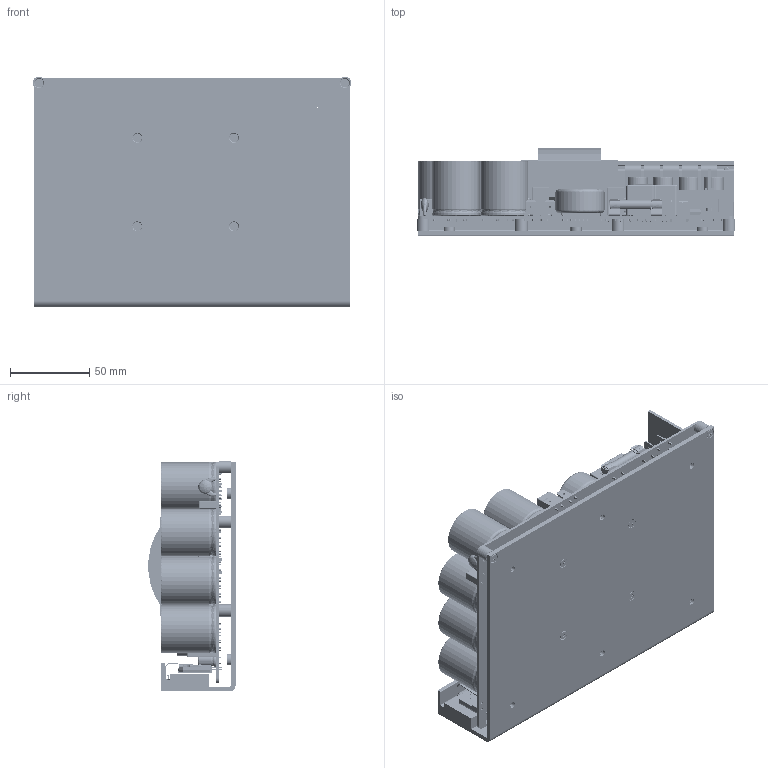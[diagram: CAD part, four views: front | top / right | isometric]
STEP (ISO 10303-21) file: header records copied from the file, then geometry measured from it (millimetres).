
FILE_DESCRIPTION (( 'STEP AP214' ), '1' );
FILE_NAME ('SMPS3k 09xx.STEP', '2020-10-21T12:06:15', ( '' ), ( '' ), 'SwSTEP 2.0', 'SolidWorks 2017', '' );
FILE_SCHEMA (( 'AUTOMOTIVE_DESIGN' ));
Length unit declared in the file: millimetre
Products named in the file (16): 09xxBolt M3x8 Countersunk TX Zinc; Hsink SAA20L3W0H8T2; Hsink SAA4L3W0H2T1; User Library-Fuse-2; Hsink SBA20L15W6H3T2; Push-in nut; SMPS3k 09xx; User Library-Fuse-2_inners; Spacer 8x7,5mm Nylon; 09xxHsink Spring Clip; User Library-Fuse-2_tube; User Library-Fuse-2_cap; soldeerpen; PCB SMPS3k B12
Assembly tree (46 placements, depth 3):
  SMPS3k 09xx
    Hsink SBA20L15W6H3T2
      Hsink SBA20L15W6H3T2
      Push-in nut  x6
    PCB SMPS3k B12
    User Library-Fuse-2
      User Library-Fuse-2_cap  x2
      User Library-Fuse-2_tube
      User Library-Fuse-2_inners
    Spacer 8x7,5mm Nylon  x6
    Hsink SAA4L3W0H2T1
      Hsink SAA4L3W0H2T1
      soldeerpen
    Hsink SAA20L3W0H8T2
    09xxHsink Spring Clip  x10
    09xxBolt M3x8 Countersunk TX Zinc  x12
Bounding box: 201 x 55.05 x 145.5 mm (x, y, z)
Volume: 632230.5 mm3; surface area: 299266 mm2
Topology: 190 solids, 190 shells, 12105 faces, 31190 edges, 19341 vertices
Faces by surface type: plane 6669, cylinder 3115, bspline 1315, cone 727, torus 212, sphere 67
Entity records: 329544 total; most frequent: CARTESIAN_POINT 69710, ORIENTED_EDGE 37922, DIRECTION 37135, EDGE_CURVE 18961, AXIS2_PLACEMENT_3D 12495, LINE 12145, VECTOR 12145, VERTEX_POINT 11824
